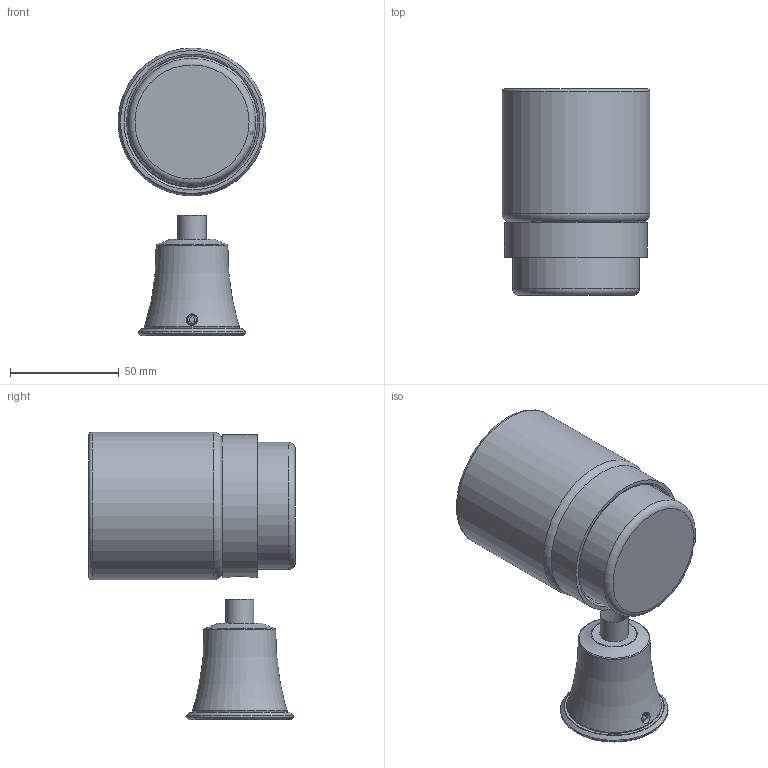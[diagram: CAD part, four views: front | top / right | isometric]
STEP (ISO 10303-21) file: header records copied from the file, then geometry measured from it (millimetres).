
FILE_DESCRIPTION(/* description */ (''),/* implementation_level */ '2;1');
FILE_NAME(/* name */ 'c:\worker\convert-fusion-r05\tmp\job-1\20\output\files\b6f94444-ffff-4ef1-9a4a-5bbfd4746885\bdfc038f-c141-433b-b48b-91002aa1940b.stp',/* time_stamp */ '2019-07-10T07:08:12+00:00',/* author */ (''),/* organization */ (''),/* preprocessor_version */ 'ST-DEVELOPER v18',/* originating_system */ 'Autodesk Translation Framework v8.2.0.1029',/* authorisation */ '');
FILE_SCHEMA (('AUTOMOTIVE_DESIGN { 1 0 10303 214 3 1 1 }'));
Length unit declared in the file: millimetre
Products named in the file (1): !AL53320
Bounding box: 67.97 x 95 x 132.39 mm (x, y, z)
Volume: 111637.9 mm3; surface area: 61684.1 mm2
Topology: 5 solids, 5 shells, 54 faces, 160 edges, 119 vertices
Faces by surface type: plane 19, torus 18, cylinder 11, cone 6
Full cylindrical faces by diameter (mm): 5 x1, 5.2 x1, 11.8 x1, 13 x1, 13.2 x1, 53.5 x1, 58.5 x1, 60.5 x1, 63 x1, 65.8 x1, 68 x1
Entity records: 2043 total; most frequent: CARTESIAN_POINT 438, DIRECTION 377, ORIENTED_EDGE 318, AXIS2_PLACEMENT_3D 174, EDGE_CURVE 159, CIRCLE 119, VERTEX_POINT 119, EDGE_LOOP 60
